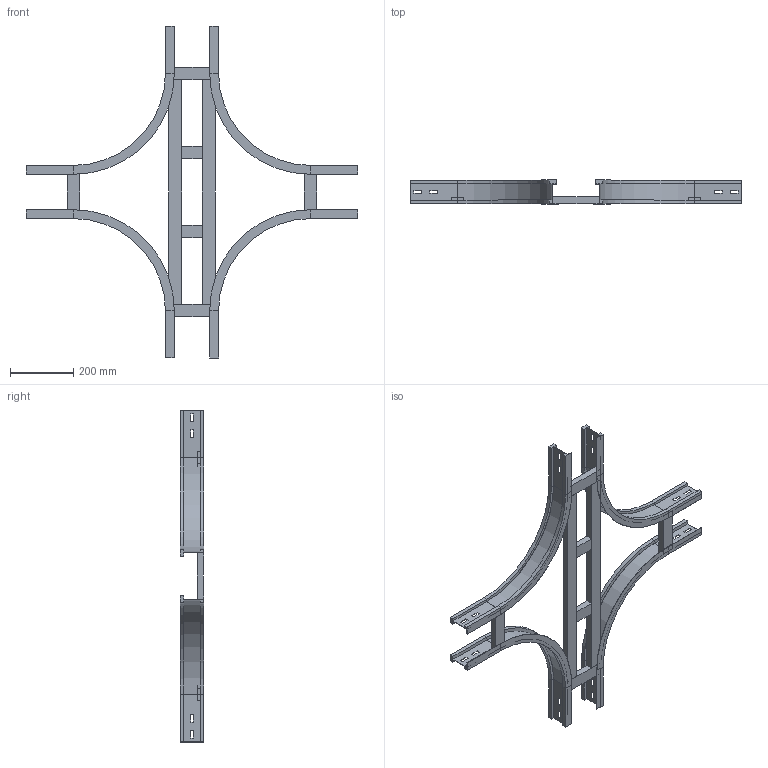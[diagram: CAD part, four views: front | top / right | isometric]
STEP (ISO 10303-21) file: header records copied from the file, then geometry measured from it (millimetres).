
FILE_DESCRIPTION (( 'STEP AP214' ), '1' );
FILE_NAME ('17S3C150.step', '2025-02-21T16:18:17', ( '' ), ( '' ), 'SwSTEP 2.0', 'SolidWorks 2023', '' );
FILE_SCHEMA (( 'AUTOMOTIVE_DESIGN' ));
Length unit declared in the file: millimetre
Products named in the file (5): TRAVERSINO_INTERMEDIO_X_R300+150; TRAVERSINO_LONG._R300+150; TRAVERSINO_150; LONGH.INTERNO 90°_H75_R300; 17S3C150
Assembly tree (12 placements, depth 2):
  17S3C150
    LONGH.INTERNO 90°_H75_R300  x4
    TRAVERSINO_150  x4
    TRAVERSINO_INTERMEDIO_X_R300+150  x2
    TRAVERSINO_LONG._R300+150  x2
Bounding box: 1050 x 75 x 1050 mm (x, y, z)
Volume: 3249701.7 mm3; surface area: 1034816.8 mm2
Topology: 12 solids, 12 shells, 264 faces, 624 edges, 384 vertices
Faces by surface type: plane 240, cylinder 24
Entity records: 2226 total; most frequent: CARTESIAN_POINT 359, DIRECTION 354, ORIENTED_EDGE 336, EDGE_CURVE 168, LINE 156, VECTOR 156, VERTEX_POINT 104, AXIS2_PLACEMENT_3D 99
